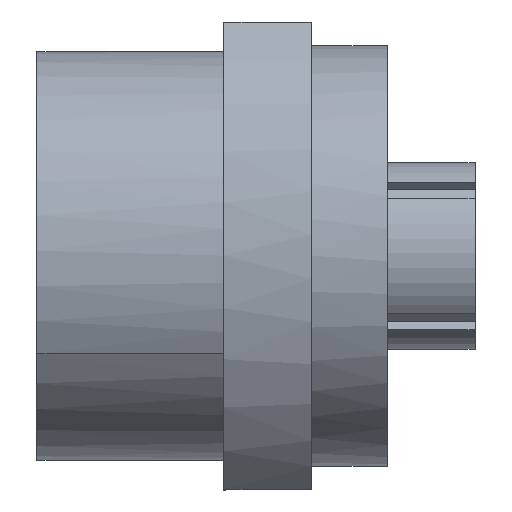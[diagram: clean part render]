
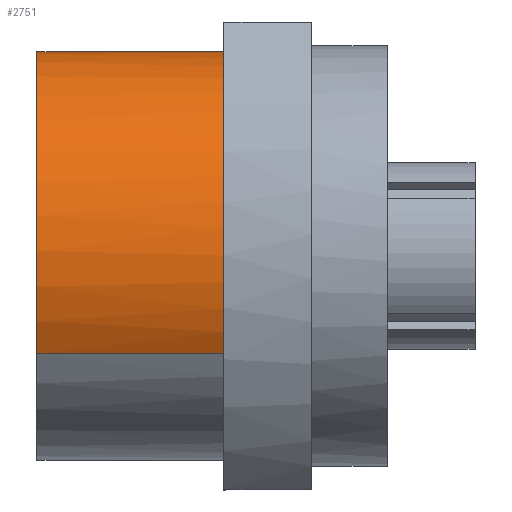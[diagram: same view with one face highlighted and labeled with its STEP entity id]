
A CAD part, top view. The second image highlights one B-rep face of the part: STEP entity #2751.
In plain terms, the highlighted cylindrical face has radius 35 mm (diameter 70 mm), a partial arc.
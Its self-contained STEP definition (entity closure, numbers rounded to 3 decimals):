
#1862=CARTESIAN_POINT('Control Point',(-15.,16.78,-30.715)) ;
#1863=CARTESIAN_POINT('Control Point',(-15.,19.578,-29.187)) ;
#1864=CARTESIAN_POINT('Control Point',(-15.,22.201,-27.34)) ;
#1865=CARTESIAN_POINT('Control Point',(-15.,24.603,-25.201)) ;
#1866=CARTESIAN_POINT('Control Point',(-15.,28.876,-20.413)) ;
#1867=CARTESIAN_POINT('Control Point',(-15.,31.964,-14.788)) ;
#1868=CARTESIAN_POINT('Control Point',(-15.,33.18,-11.81)) ;
#1869=CARTESIAN_POINT('Control Point',(-15.,34.912,-5.631)) ;
#1870=CARTESIAN_POINT('Control Point',(-15.,35.21,0.78)) ;
#1871=CARTESIAN_POINT('Control Point',(-15.,34.992,3.988)) ;
#1872=CARTESIAN_POINT('Control Point',(-15.,33.83,10.299)) ;
#1873=CARTESIAN_POINT('Control Point',(-15.,31.278,16.188)) ;
#1874=CARTESIAN_POINT('Control Point',(-15.,29.671,18.974)) ;
#1875=CARTESIAN_POINT('Control Point',(-15.,25.851,24.13)) ;
#1876=CARTESIAN_POINT('Control Point',(-15.,20.97,28.296)) ;
#1877=CARTESIAN_POINT('Control Point',(-15.,18.301,30.091)) ;
#1878=CARTESIAN_POINT('Control Point',(-15.,12.602,33.041)) ;
#1879=CARTESIAN_POINT('Control Point',(-15.,6.386,34.635)) ;
#1880=CARTESIAN_POINT('Control Point',(-15.,3.2,35.073)) ;
#1881=CARTESIAN_POINT('Control Point',(-15.,-2.888,35.209)) ;
#1882=CARTESIAN_POINT('Control Point',(-15.,-8.858,34.043)) ;
#1883=CARTESIAN_POINT('Control Point',(-15.,-11.615,33.203)) ;
#1884=CARTESIAN_POINT('Control Point',(-15.,-14.268,32.088)) ;
#1885=CARTESIAN_POINT('Control Point',(-15.,-16.78,30.715)) ;
#1886=CARTESIAN_POINT('Vertex',(-15.,16.78,-30.715)) ;
#1888=CARTESIAN_POINT('Vertex',(-15.,-16.78,30.715)) ;
#2721=CARTESIAN_POINT('Axis2P3D Location',(-83.361,0.,0.)) ;
#2726=CARTESIAN_POINT('Line Origine',(-83.361,-16.78,30.715)) ;
#2730=CARTESIAN_POINT('Vertex',(-47.,-16.78,30.715)) ;
#2733=CARTESIAN_POINT('Line Origine',(-83.361,16.78,-30.715)) ;
#2737=CARTESIAN_POINT('Vertex',(-47.,16.78,-30.715)) ;
#2740=CARTESIAN_POINT('Axis2P3D Location',(-47.,0.,0.)) ;
#2722=DIRECTION('Axis2P3D Direction',(1.,0.,0.)) ;
#2723=DIRECTION('Axis2P3D XDirection',(0.,0.479,-0.878)) ;
#2727=DIRECTION('Vector Direction',(1.,0.,0.)) ;
#2734=DIRECTION('Vector Direction',(1.,0.,0.)) ;
#2741=DIRECTION('Axis2P3D Direction',(1.,0.,0.)) ;
#2724=AXIS2_PLACEMENT_3D('Cylinder Axis2P3D',#2721,#2722,#2723) ;
#2742=AXIS2_PLACEMENT_3D('Circle Axis2P3D',#2740,#2741,$) ;
#2746=ORIENTED_EDGE('',*,*,#2732,.F.) ;
#2747=ORIENTED_EDGE('',*,*,#1890,.F.) ;
#2748=ORIENTED_EDGE('',*,*,#2739,.T.) ;
#2749=ORIENTED_EDGE('',*,*,#2744,.T.) ;
#2728=VECTOR('Line Direction',#2727,1.) ;
#2735=VECTOR('Line Direction',#2734,1.) ;
#2751=ADVANCED_FACE('WBK20DF(H)',(#2750),#2725,.T.) ;
#1861=B_SPLINE_CURVE_WITH_KNOTS('',5,(#1862,#1863,#1864,#1865,#1866,#1867,#1868,#1869,#1870,#1871,#1872,#1873,#1874,#1875,#1876,#1877,#1878,#1879,#1880,#1881,#1882,#1883,#1884,#1885),.UNSPECIFIED.,.F.,.U.,(6,3,3,3,3,3,3,6),(0.,22.543,45.086,67.629,90.172,112.716,135.259,155.5),.UNSPECIFIED.) ;
#2743=CIRCLE('generated circle',#2742,35.) ;
#2725=CYLINDRICAL_SURFACE('generated cylinder',#2724,35.) ;
#1890=EDGE_CURVE('',#1887,#1889,#1861,.T.) ;
#2732=EDGE_CURVE('',#1889,#2731,#2729,.F.) ;
#2739=EDGE_CURVE('',#1887,#2738,#2736,.F.) ;
#2744=EDGE_CURVE('',#2738,#2731,#2743,.T.) ;
#2745=EDGE_LOOP('',(#2746,#2747,#2748,#2749)) ;
#2750=FACE_OUTER_BOUND('',#2745,.T.) ;
#2729=LINE('Line',#2726,#2728) ;
#2736=LINE('Line',#2733,#2735) ;
#1887=VERTEX_POINT('',#1886) ;
#1889=VERTEX_POINT('',#1888) ;
#2731=VERTEX_POINT('',#2730) ;
#2738=VERTEX_POINT('',#2737) ;
